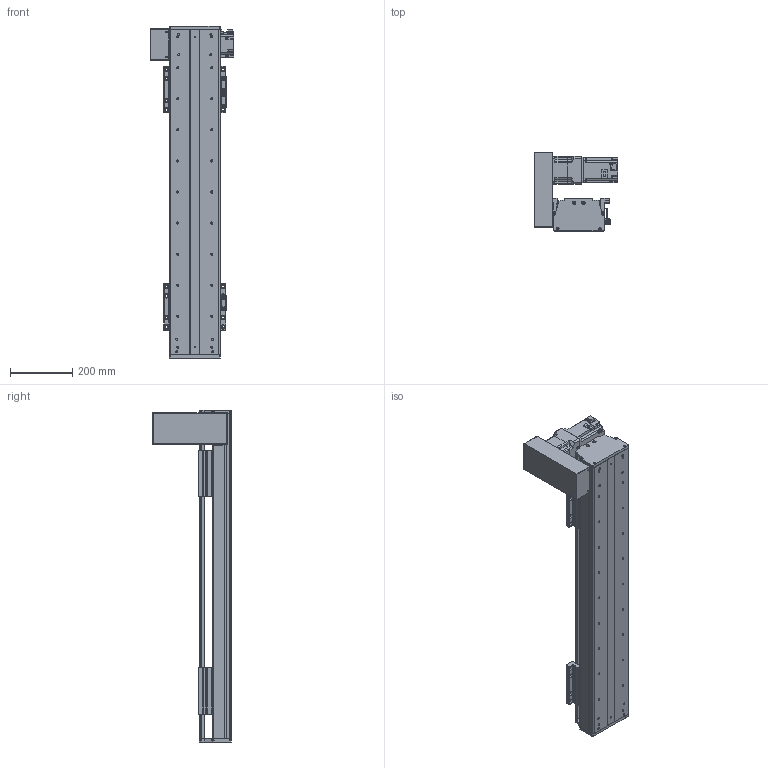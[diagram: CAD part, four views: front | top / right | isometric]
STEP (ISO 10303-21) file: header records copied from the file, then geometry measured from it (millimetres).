
FILE_DESCRIPTION(/* description */ (''),/* implementation_level */ '2;1');
FILE_NAME(/* name */ 'C:\Users\PC\Desktop\3D도면\STEP\DSB165-UL7G-W0700-R.stp',/* time_stamp */ '2018-06-25T15:03:29+09:00',/* author */ ('PC'),/* organization */ (''),/* preprocessor_version */ 'ST-DEVELOPER v16.5',/* originating_system */ 'Autodesk Inventor 2017',/* authorisation */ '');
FILE_SCHEMA (('AUTOMOTIVE_DESIGN { 1 0 10303 214 3 1 1 }'));
Length unit declared in the file: millimetre
Products named in the file (12): DSB165-L; DSR165-BASE_S; hg-kr73_; ab0901-p0401300102; 11-DBS165 BELT COVER; DBS165-COVER; DBS165-COVER_1; DBS165-UP COVER; DSR126-SENSOR DOG; pm-y65_step; SENSOR BRACKET(EE-SX674A); DBS165-TABLE(MSA20S)
Assembly tree (16 placements, depth 2):
  DSB165-L
    DSR165-BASE_S
    hg-kr73_
    ab0901-p0401300102
    11-DBS165 BELT COVER
    DBS165-COVER
    DBS165-COVER_1
    DBS165-UP COVER
    DSR126-SENSOR DOG
    pm-y65_step  x3
    SENSOR BRACKET(EE-SX674A)  x3
    DBS165-TABLE(MSA20S)  x2
Bounding box: 270 x 254 x 1070 mm (x, y, z)
Volume: 7495708.4 mm3; surface area: 1728740.7 mm2
Topology: 17 solids, 22 shells, 1667 faces, 4475 edges, 2952 vertices
Faces by surface type: plane 926, cylinder 619, cone 110, sphere 8, torus 4
Full cylindrical faces by diameter (mm): 2.459 x20, 3.5 x6, 4.134 x42, 4.5 x18, 5 x27, 5.5 x36, 5.9 x4, 6 x8, 6.6 x14, 6.647 x38, 6.8 x1, 7 x4, 7.6 x4, 8 x1, 8.4 x1, 8.5 x24, 8.7 x1, 9.5 x32, 11 x6, 14 x16, 19 x1, 22 x1, 24 x1, 25 x1, 28 x1, 67 x1, 70 x2, 80 x1
Entity records: 35469 total; most frequent: DIRECTION 6268, CARTESIAN_POINT 6079, ORIENTED_EDGE 5534, EDGE_CURVE 2772, AXIS2_PLACEMENT_3D 2304, VERTEX_POINT 1977, EDGE_LOOP 1731, LINE 1660
